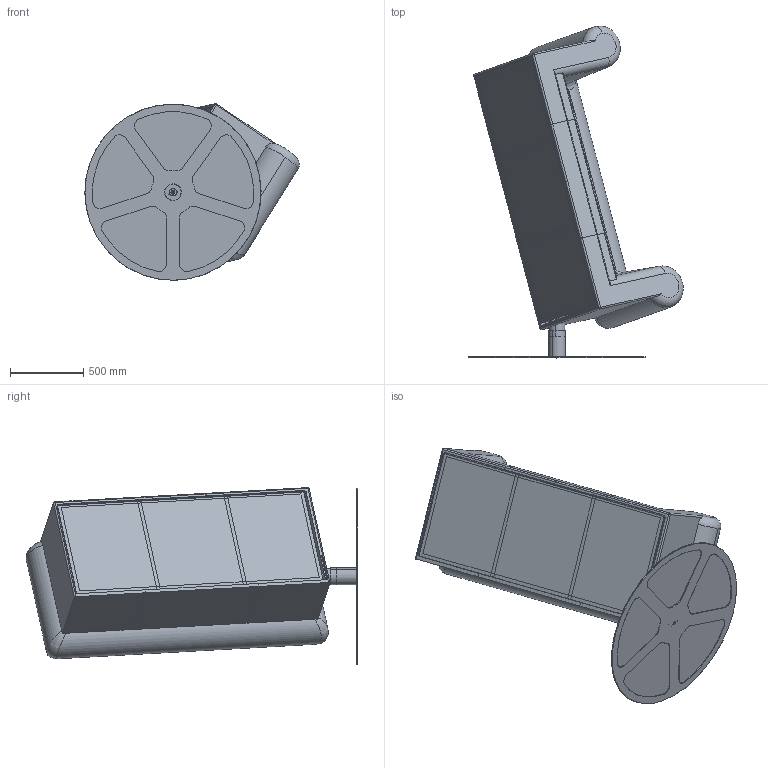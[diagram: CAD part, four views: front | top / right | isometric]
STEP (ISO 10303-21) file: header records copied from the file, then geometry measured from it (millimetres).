
FILE_DESCRIPTION (( 'STEP AP214' ), '1' );
FILE_NAME ('SE73_0000.STEP', '2016-02-04T08:27:28', ( '' ), ( '' ), 'SwSTEP 2.0', 'SolidWorks 2015', '' );
FILE_SCHEMA (( 'AUTOMOTIVE_DESIGN' ));
Length unit declared in the file: millimetre
Products named in the file (16): SE73_0000; hex nut style 2_am_B18.2.4.2M - Hex nut, Style 2,  M6 x 1 --D-N; socket countersunk head screw_am_B18.3.5M - 6 x 1.0 x 50 Socket FCHS  -- 24N; SE73_0200 Couch Assembly; SE73_0006 back fabric; SE73_0005 back frame; SE73_0110 couch plate 150921; SE73_0001 Foam Master; SE73_0100_150730 base; 351500-ECS Mekrapid ; 35O000-EC Mekrapid; 351165-M12 Mekrapid; SE73_0106 base swivel 150921; SE73_0107 base tube; SE73_0108 cover plate; SE73_0105 base plate
Assembly tree (25 placements, depth 3):
  SE73_0000
    SE73_0100_150730 base
      SE73_0105 base plate
      SE73_0108 cover plate
      SE73_0107 base tube
      SE73_0106 base swivel 150921
      351165-M12 Mekrapid
      35O000-EC Mekrapid
      351500-ECS Mekrapid 
    SE73_0200 Couch Assembly
      SE73_0001 Foam Master
      SE73_0110 couch plate 150921
      SE73_0005 back frame
      SE73_0006 back fabric
    socket countersunk head screw_am_B18.3.5M - 6 x 1.0 x 50 Socket FCHS  -- 24N  x6
    hex nut style 2_am_B18.2.4.2M - Hex nut, Style 2,  M6 x 1 --D-N  x6
Bounding box: 1461.67 x 2262.51 x 1205 mm (x, y, z)
Volume: 423168748 mm3; surface area: 15198723.8 mm2
Topology: 26 solids, 26 shells, 606 faces, 1391 edges, 832 vertices
Faces by surface type: plane 248, cylinder 172, cone 160, torus 15, bspline 9, sphere 2
Entity records: 11716 total; most frequent: CARTESIAN_POINT 2897, DIRECTION 1773, ORIENTED_EDGE 1606, EDGE_CURVE 803, AXIS2_PLACEMENT_3D 672, VERTEX_POINT 507, VECTOR 429, LINE 429
